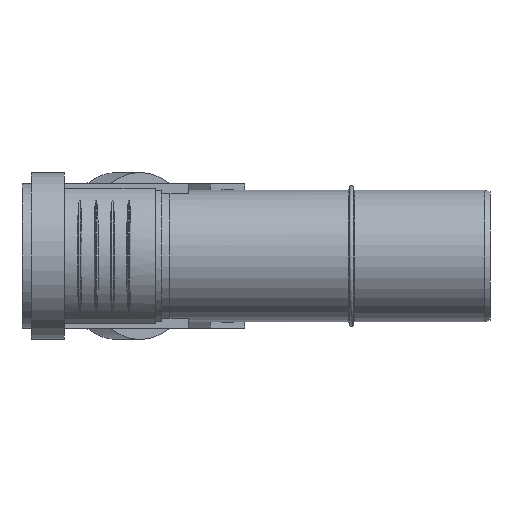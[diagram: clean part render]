
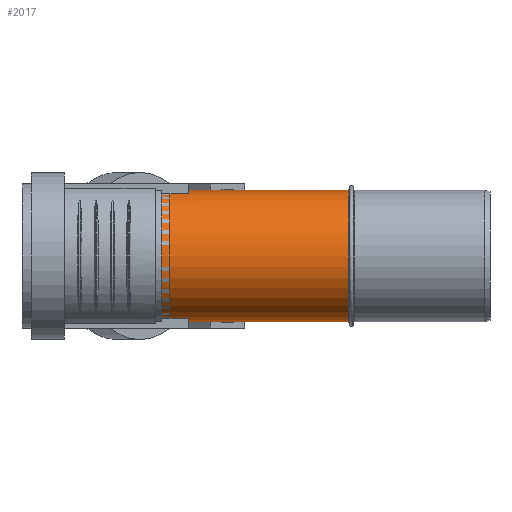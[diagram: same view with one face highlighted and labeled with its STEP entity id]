
A CAD part, left-side view. The second image highlights one B-rep face of the part: STEP entity #2017.
In plain terms, the highlighted cylindrical face has radius 25.075 mm (diameter 50.15 mm), a full revolution.
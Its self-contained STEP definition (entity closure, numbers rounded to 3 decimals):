
#125=ELLIPSE($,#2160,65.524,25.075);
#126=ELLIPSE($,#2161,27.141,25.075);
#127=ELLIPSE($,#2162,65.524,25.075);
#365=CYLINDRICAL_SURFACE($,#2159,25.075);
#405=FACE_BOUND($,#596,.T.);
#475=FACE_OUTER_BOUND($,#595,.T.);
#595=EDGE_LOOP($,(#1353));
#596=EDGE_LOOP($,(#1354,#1355,#1356,#1357));
#766=CIRCLE($,#2148,25.075);
#771=CIRCLE($,#2157,25.075);
#862=VERTEX_POINT($,#2924);
#865=VERTEX_POINT($,#2933);
#866=VERTEX_POINT($,#2934);
#869=VERTEX_POINT($,#2944);
#870=VERTEX_POINT($,#2946);
#1067=EDGE_CURVE($,#862,#862,#766,.T.);
#1073=EDGE_CURVE($,#865,#866,#771,.T.);
#1075=EDGE_CURVE($,#866,#869,#125,.T.);
#1076=EDGE_CURVE($,#869,#870,#126,.T.);
#1077=EDGE_CURVE($,#870,#865,#127,.T.);
#1353=ORIENTED_EDGE($,*,*,#1067,.T.);
#1354=ORIENTED_EDGE($,*,*,#1073,.T.);
#1355=ORIENTED_EDGE($,*,*,#1075,.T.);
#1356=ORIENTED_EDGE($,*,*,#1076,.T.);
#1357=ORIENTED_EDGE($,*,*,#1077,.T.);
#2017=ADVANCED_FACE($,(#475,#405),#365,.T.);
#2148=AXIS2_PLACEMENT_3D($,#2925,#2390,#2391);
#2157=AXIS2_PLACEMENT_3D($,#2940,#2409,#2410);
#2159=AXIS2_PLACEMENT_3D($,#2943,#2413,#2414);
#2160=AXIS2_PLACEMENT_3D($,#2945,#2415,#2416);
#2161=AXIS2_PLACEMENT_3D($,#2947,#2417,#2418);
#2162=AXIS2_PLACEMENT_3D($,#2948,#2419,#2420);
#2390=DIRECTION('center_axis',(0.,1.,0.));
#2391=DIRECTION('ref_axis',(1.,0.,0.));
#2409=DIRECTION('center_axis',(0.,-1.,0.));
#2410=DIRECTION('ref_axis',(1.,0.,0.));
#2413=DIRECTION('center_axis',(0.,1.,0.));
#2414=DIRECTION('ref_axis',(1.,0.,0.));
#2415=DIRECTION('center_axis',(-0.924,0.383,0.));
#2416=DIRECTION('ref_axis',(-0.383,-0.924,0.));
#2417=DIRECTION('center_axis',(-0.383,-0.924,0.));
#2418=DIRECTION('ref_axis',(0.924,-0.383,0.));
#2419=DIRECTION('center_axis',(-0.924,0.383,0.));
#2420=DIRECTION('ref_axis',(-0.383,-0.924,0.));
#2924=CARTESIAN_POINT('',(-25.075,53.9,0.));
#2925=CARTESIAN_POINT('Origin',(0.,53.9,0.));
#2933=CARTESIAN_POINT('',(25.018,125.07,1.682));
#2934=CARTESIAN_POINT('',(25.018,125.07,-1.682));
#2940=CARTESIAN_POINT('Origin',(0.,125.07,0.));
#2943=CARTESIAN_POINT('Origin',(0.,0.,0.));
#2944=CARTESIAN_POINT('',(0.,64.67,-25.075));
#2945=CARTESIAN_POINT('Origin',(0.,64.67,0.));
#2946=CARTESIAN_POINT('',(0.,64.67,25.075));
#2947=CARTESIAN_POINT('Origin',(0.,64.67,0.));
#2948=CARTESIAN_POINT('Origin',(0.,64.67,0.));
